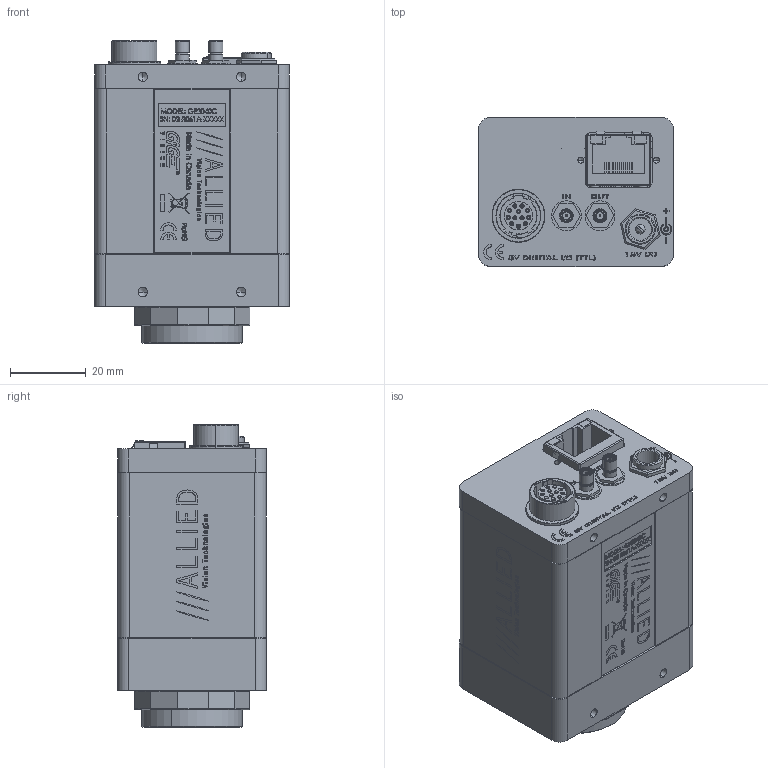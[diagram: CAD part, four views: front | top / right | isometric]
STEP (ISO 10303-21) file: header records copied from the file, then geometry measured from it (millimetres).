
FILE_DESCRIPTION (( 'STEP AP214' ), '1' );
FILE_NAME ('GE2040C CMOUNT.STEP', '2013-07-31T21:54:01', ( '' ), ( '' ), 'SwSTEP 2.0', 'SolidWorks 2013', '' );
FILE_SCHEMA (( 'AUTOMOTIVE_DESIGN' ));
Length unit declared in the file: millimetre
Products named in the file (35): 270006-JUMPER WIRE MODIFIED; 110036B GE COVER EXTRUDED SHORT WITH LOGO_Finished; 140001-AMPHENOL 903-10409-1; 100091A - GE2040C FRONT ASSY CMOUNT; 140034-SWITCHCRAFT P10149 WITH WIRE; 110041A-GE2040 FRONT PLATE; 140034-SWITCHCRAFT P10149; 220087-KODAK KAI-4021CM; 270006-JUMPER WIRE 18MM LONG; KODAK KAI-4021M BODY; 260014-SWITCHCRAFT PC712A NUT; KODAK KAI-4021M WINDOW; 260010-HIROSE HR10A-10R-12SB; 110051AA-GE2040 DUST SHIELD GASKET; 140000-AMPHENOL 903-10408-1; 440001-IR CUT FILTER 30MM DIA; 260014-SWITCHCRAFT PC712A; 110031A-B EC-CCD LOCKING RING; 260009-AMPHENOL 903-406J-51R; 110003AC-CV CMOUNT RING; 260010-HIROSE HR10A-10R-12SB WASHER; 740031B-GE SERIES LABEL; 260010-HIROSE HR10A-10R-12SB NUT; 740048A-A GE2040C LABEL PRINT; 110033B-C GE BACK PLATE; 140007-screw socket head cap #4-40x2; 140002-KEYSTONE 349; 100137A - GE CAMERA BACK ASSEMBLY - for GE2040; 140015-screw pan head phillips 4-40 x 0.1875; 200031B-A GE INTERFACE PCB ASSY; 140008-washer spring lock #4; 260029 BELFUSE 0826-1C1T-23; 100051B - GE BACKPLATE ASSY; GE2040C CMOUNT; 100000AA-CV SMB GROUNDING ASSEMBLY
Assembly tree (47 placements, depth 5):
  GE2040C CMOUNT
    100137A - GE CAMERA BACK ASSEMBLY - for GE2040
      140008-washer spring lock #4
      140015-screw pan head phillips 4-40 x 0.1875
      100051B - GE BACKPLATE ASSY
        140002-KEYSTONE 349  x4
        110033B-C GE BACK PLATE
        260010-HIROSE HR10A-10R-12SB NUT
        260010-HIROSE HR10A-10R-12SB WASHER
        260009-AMPHENOL 903-406J-51R  x2
        260014-SWITCHCRAFT PC712A
        140000-AMPHENOL 903-10408-1  x2
        260010-HIROSE HR10A-10R-12SB
        260014-SWITCHCRAFT PC712A NUT
        140034-SWITCHCRAFT P10149 WITH WIRE
          270006-JUMPER WIRE 18MM LONG
          140034-SWITCHCRAFT P10149
        100000AA-CV SMB GROUNDING ASSEMBLY  x2
          140001-AMPHENOL 903-10409-1
          270006-JUMPER WIRE MODIFIED
      200031B-A GE INTERFACE PCB ASSY
        260029 BELFUSE 0826-1C1T-23
    140007-screw socket head cap #4-40x2  x4
    740048A-A GE2040C LABEL PRINT
    740031B-GE SERIES LABEL
    140008-washer spring lock #4  x4
    100091A - GE2040C FRONT ASSY CMOUNT
      110003AC-CV CMOUNT RING
      110031A-B EC-CCD LOCKING RING
      440001-IR CUT FILTER 30MM DIA
      110051AA-GE2040 DUST SHIELD GASKET
      220087-KODAK KAI-4021CM
        KODAK KAI-4021M WINDOW
        KODAK KAI-4021M BODY
      110041A-GE2040 FRONT PLATE
    110036B GE COVER EXTRUDED SHORT WITH LOGO_Finished
Bounding box: 51.56 x 39.37 x 80.19 mm (x, y, z)
Volume: 48123.8 mm3; surface area: 69171.3 mm2
Topology: 72 solids, 72 shells, 4047 faces, 10352 edges, 6739 vertices
Faces by surface type: plane 2332, bspline 894, cylinder 581, cone 240
Entity records: 191012 total; most frequent: CARTESIAN_POINT 59101, ORIENTED_EDGE 19594, DIRECTION 15353, EDGE_CURVE 9797, LINE 6815, VECTOR 6815, VERTEX_POINT 6409, AXIS2_PLACEMENT_3D 4269
